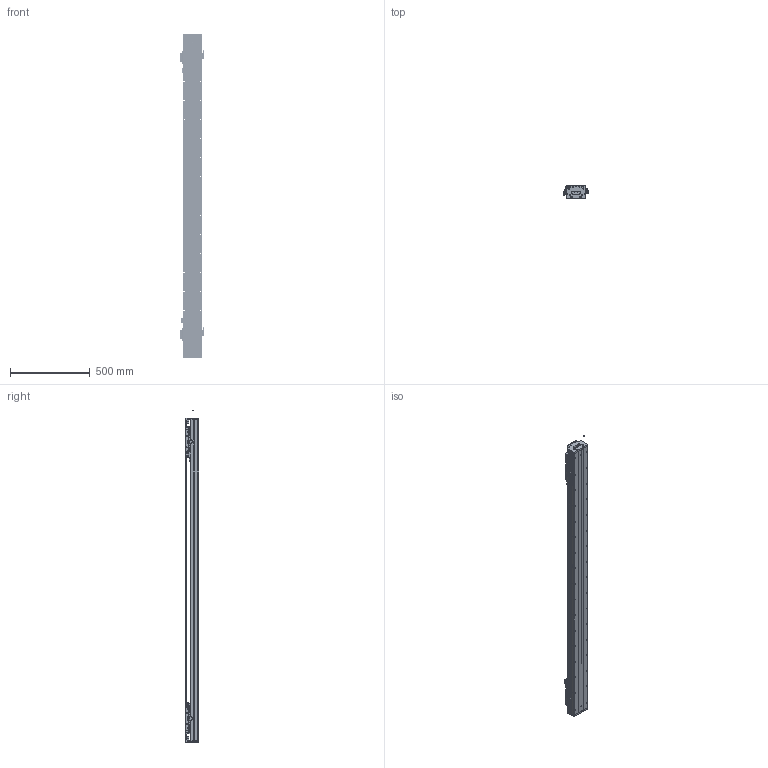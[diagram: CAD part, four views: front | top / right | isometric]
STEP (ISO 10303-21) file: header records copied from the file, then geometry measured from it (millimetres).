
FILE_DESCRIPTION (( 'STEP AP203' ), '1' );
FILE_NAME ('DKW120-2×B2-W060（T1520-L005-0.2）.STEP', '2021-09-24T02:23:44', ( '微软用户' ), ( '微软中国' ), 'SwSTEP 2.0', 'SolidWorks 2018', '' );
FILE_SCHEMA (( 'CONFIG_CONTROL_DESIGN' ));
Length unit declared in the file: millimetre
Products named in the file (25): DKW120-2×B2-W060（T1520-L005-0.2）; DKW-SG-GYP-H-00 嫖萇覜茼え; 12160-0000-004-00  DKW120詩湍揤輸; DKW120-B15-T300-DZ-00 菁釱; B2-W060_00; DKW120 单轴模组-拉钢带组件; MSB15-DG-U; DKW119-RU-DTJ-00 RU2黍杅芛盓殤; BKMA01-W060-TRL280; 06652-0001-001-00 DKW120傷啣; B2-W060; RUS嫖掑喜; 06652-0001-004-00 DKW120嶺輸菜輸; EE_SX674A; Ru2; DKW-HXJ-JY-00 遣喳砎蝶; DKW-DG-XJ-Z-00 笢潔滅袉砎蝶; 錨弇; 10940-0001-004-00 120詩湍裔啣; DKW-GYP-ZJ-00 笢潔嫖萇覜茼え; RUS嫖掑郪璃; 砎蝶猾沭; DKW-KGZ-ZJ-00 中间光电开关支架; 10980-0001-003-00 嫖萇羲壽嘐隅釱; 12160-0000-003-00 DKW120詩湍嶺輸
Assembly tree (42 placements, depth 3):
  DKW120-2×B2-W060（T1520-L005-0.2）
    DKW120-B15-T300-DZ-00 菁釱
    MSB15-DG-U  x2
    DKW120 单轴模组-拉钢带组件
      06652-0001-001-00 DKW120傷啣  x2
      06652-0001-004-00 DKW120嶺輸菜輸  x4
      DKW-HXJ-JY-00 遣喳砎蝶  x4
      10940-0001-004-00 120詩湍裔啣
      砎蝶猾沭  x2
      12160-0000-003-00 DKW120詩湍嶺輸  x2
      12160-0000-004-00  DKW120詩湍揤輸  x2
    BKMA01-W060-TRL280
    RUS嫖掑郪璃
      RUS嫖掑喜
      Ru2
      錨弇
    10980-0001-003-00 嫖萇羲壽嘐隅釱  x2
    B2-W060  x2
      DKW-SG-GYP-H-00 嫖萇覜茼え
      B2-W060_00
      DKW119-RU-DTJ-00 RU2黍杅芛盓殤
    EE_SX674A  x5
    Ru2
    DKW-DG-XJ-Z-00 笢潔滅袉砎蝶
    DKW-GYP-ZJ-00 笢潔嫖萇覜茼え
    DKW-KGZ-ZJ-00 中间光电开关支架
Bounding box: 154.1 x 84 x 2086.74 mm (x, y, z)
Volume: 7673724.7 mm3; surface area: 2961301.9 mm2
Topology: 61 solids, 159 shells, 6492 faces, 17566 edges, 11307 vertices
Faces by surface type: plane 3598, cylinder 1912, bspline 494, cone 488
Entity records: 141305 total; most frequent: CARTESIAN_POINT 48421, ORIENTED_EDGE 19137, DIRECTION 17842, EDGE_CURVE 9609, VERTEX_POINT 6297, AXIS2_PLACEMENT_3D 5965, VECTOR 5912, LINE 5912
